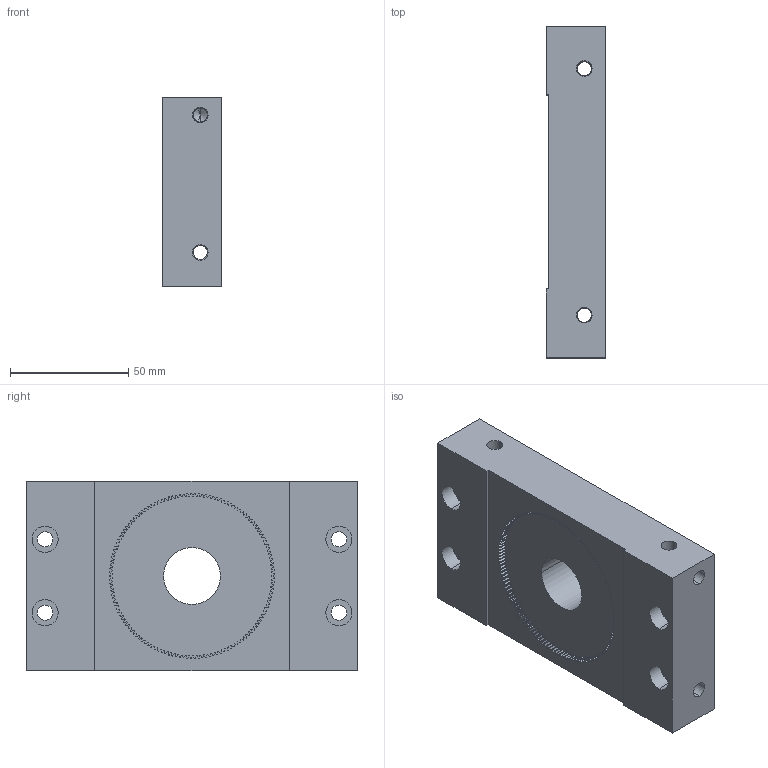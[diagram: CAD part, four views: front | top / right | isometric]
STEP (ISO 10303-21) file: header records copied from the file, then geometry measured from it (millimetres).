
FILE_DESCRIPTION (( 'STEP AP203' ), '1' );
FILE_NAME ('Plaque empreinte partie fixe monobloc.STEP', '2021-10-27T18:32:35', ( '' ), ( '' ), 'SwSTEP 2.0', 'SolidWorks 2019', '' );
FILE_SCHEMA (( 'CONFIG_CONTROL_DESIGN' ));
Length unit declared in the file: millimetre
Products named in the file (1): Plaque empreinte partie fixe  monobloc
Bounding box: 25 x 140 x 80 mm (x, y, z)
Volume: 235535.5 mm3; surface area: 45002.9 mm2
Topology: 1 solids, 1 shells, 992 faces, 2911 edges, 1914 vertices
Faces by surface type: cylinder 675, bspline 274, cone 28, plane 15
Entity records: 36602 total; most frequent: CARTESIAN_POINT 10920, ORIENTED_EDGE 5806, DIRECTION 5055, EDGE_CURVE 2903, AXIS2_PLACEMENT_3D 2033, VERTEX_POINT 1914, CIRCLE 1314, EDGE_LOOP 1021
